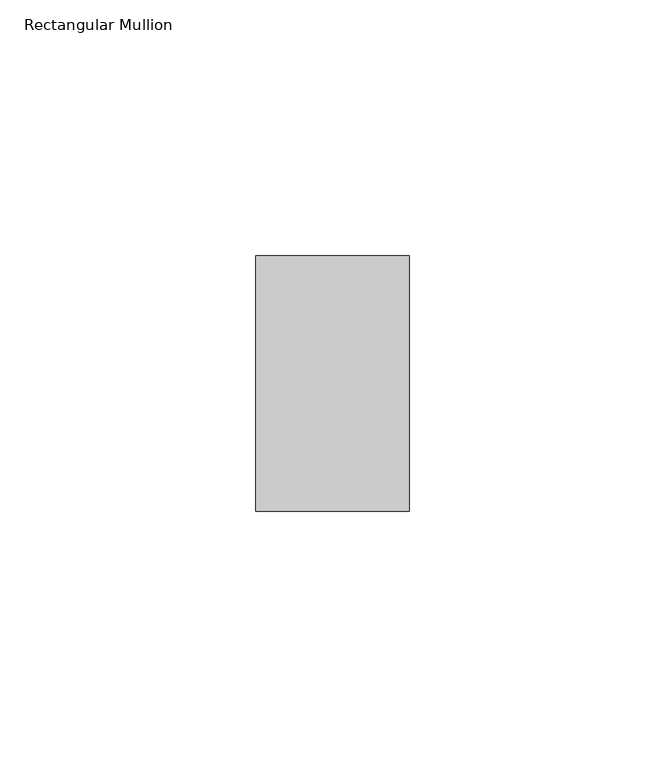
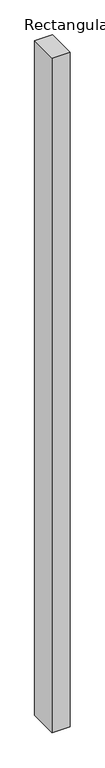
"""IFC4 building model written with IfcOpenShell, lengths in millimetres: member geometry, Rectangular Mullion : ARQ_TV_MULL_50x30mm."""

from ifc_helpers import new_model, si_unit, frame, origin, place, context, project, spatial, polyline, outline, extrude, source, transform, mapped, element, save


def rectangular_mullion_df0a624f(model_context):
    return source(origin(), model_context, "Body", "SweptSolid", [
        extrude(outline(polyline([(15.0, 25.0), (15.0, -25.0), (-15.0, -25.0), (-15.0, 25.0), (15.0, 25.0)])), frame((0.0, 0.0, -1190.8012023), z_axis=(0.0, 0.0, 1.0), x_axis=(1.0, 0.0, 0.0)), (0.0, 0.0, 1.0), 1190.8012023),
    ])


if __name__ == "__main__":
    model = new_model("IFC4")
    model_context = context("Model", 3, world=origin())
    ifc_project = project(units=[si_unit("LENGTHUNIT", "METRE", prefix="MILLI")], contexts=[model_context])
    site = spatial("IfcSite", under=ifc_project)
    building = spatial("IfcBuilding", under=site)
    placement = place(None, origin())
    rectangular_mullion_shape = rectangular_mullion_df0a624f(model_context)
    element("IfcMember", 1, ObjectType="Rectangular Mullion : ARQ_TV_MULL_50x30mm", at=placement, inside=building, context=model_context, shape_type="MappedRepresentation", body=[
        mapped(rectangular_mullion_shape, transform((0.0, 0.0, 0.0), x_axis=(1.0, 0.0, 0.0), y_axis=(0.0, 1.0, 0.0), z_axis=(0.0, 0.0, 1.0))),
    ])
    save(model, "model.ifc")
